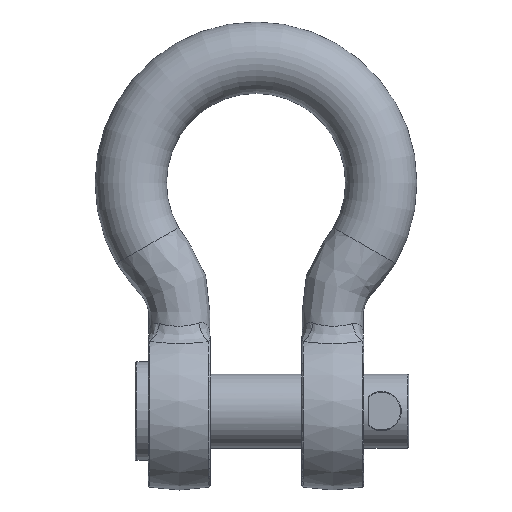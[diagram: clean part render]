
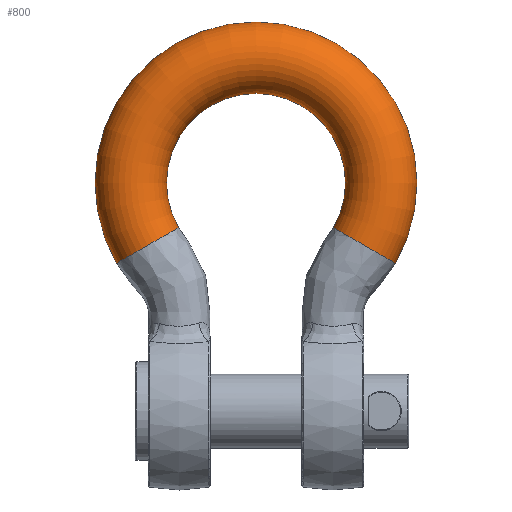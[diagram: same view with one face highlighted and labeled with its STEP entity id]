
A CAD part, top view. The second image highlights one B-rep face of the part: STEP entity #800.
In plain terms, the highlighted toroidal (fillet/blend) face has major radius 152.5 mm and minor radius 43.5 mm.
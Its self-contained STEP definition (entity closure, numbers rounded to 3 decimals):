
#68=TOROIDAL_SURFACE('',#944,152.5,43.5);
#148=FACE_OUTER_BOUND('',#196,.T.);
#196=EDGE_LOOP('',(#668,#669,#670,#671,#672,#673));
#284=CIRCLE('',#945,43.5);
#285=CIRCLE('',#946,43.5);
#286=CIRCLE('',#947,109.);
#287=CIRCLE('',#948,43.5);
#288=CIRCLE('',#949,43.5);
#366=VERTEX_POINT('',#3264);
#367=VERTEX_POINT('',#3265);
#368=VERTEX_POINT('',#3268);
#369=VERTEX_POINT('',#3270);
#474=EDGE_CURVE('',#366,#367,#284,.T.);
#475=EDGE_CURVE('',#367,#366,#285,.T.);
#476=EDGE_CURVE('',#367,#368,#286,.T.);
#477=EDGE_CURVE('',#368,#369,#287,.T.);
#478=EDGE_CURVE('',#369,#368,#288,.T.);
#668=ORIENTED_EDGE('',*,*,#474,.F.);
#669=ORIENTED_EDGE('',*,*,#475,.F.);
#670=ORIENTED_EDGE('',*,*,#476,.T.);
#671=ORIENTED_EDGE('',*,*,#477,.T.);
#672=ORIENTED_EDGE('',*,*,#478,.T.);
#673=ORIENTED_EDGE('',*,*,#476,.F.);
#800=ADVANCED_FACE('',(#148),#68,.T.);
#944=AXIS2_PLACEMENT_3D('',#3263,#1105,#1106);
#945=AXIS2_PLACEMENT_3D('',#3266,#1107,#1108);
#946=AXIS2_PLACEMENT_3D('',#3267,#1109,#1110);
#947=AXIS2_PLACEMENT_3D('',#3269,#1111,#1112);
#948=AXIS2_PLACEMENT_3D('',#3271,#1113,#1114);
#949=AXIS2_PLACEMENT_3D('',#3272,#1115,#1116);
#1105=DIRECTION('center_axis',(0.,0.,1.));
#1106=DIRECTION('ref_axis',(0.,1.,0.));
#1107=DIRECTION('center_axis',(0.5,-0.866,0.));
#1108=DIRECTION('ref_axis',(-0.866,-0.5,0.));
#1109=DIRECTION('center_axis',(0.5,-0.866,0.));
#1110=DIRECTION('ref_axis',(-0.866,-0.5,0.));
#1111=DIRECTION('center_axis',(0.,0.,-1.));
#1112=DIRECTION('ref_axis',(0.,1.,0.));
#1113=DIRECTION('center_axis',(0.5,0.866,0.));
#1114=DIRECTION('ref_axis',(0.866,-0.5,0.));
#1115=DIRECTION('center_axis',(0.5,0.866,0.));
#1116=DIRECTION('ref_axis',(0.866,-0.5,0.));
#3263=CARTESIAN_POINT('Origin',(0.,278.,0.));
#3264=CARTESIAN_POINT('',(-169.741,180.,0.));
#3265=CARTESIAN_POINT('',(-94.397,223.5,0.));
#3266=CARTESIAN_POINT('Origin',(-132.069,201.75,0.));
#3267=CARTESIAN_POINT('Origin',(-132.069,201.75,0.));
#3268=CARTESIAN_POINT('',(94.397,223.5,0.));
#3269=CARTESIAN_POINT('Origin',(0.,278.,0.));
#3270=CARTESIAN_POINT('',(169.741,180.,0.));
#3271=CARTESIAN_POINT('Origin',(132.069,201.75,0.));
#3272=CARTESIAN_POINT('Origin',(132.069,201.75,0.));
